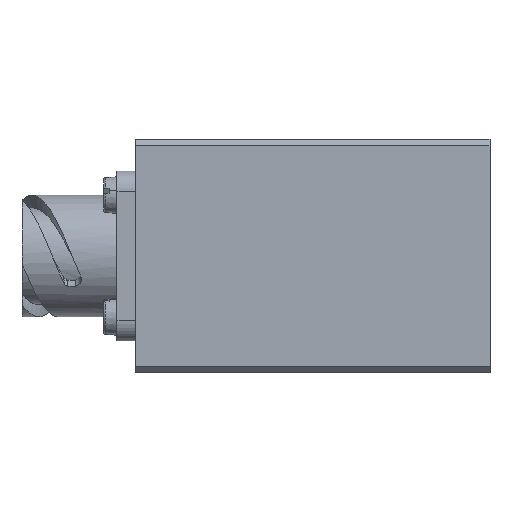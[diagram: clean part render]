
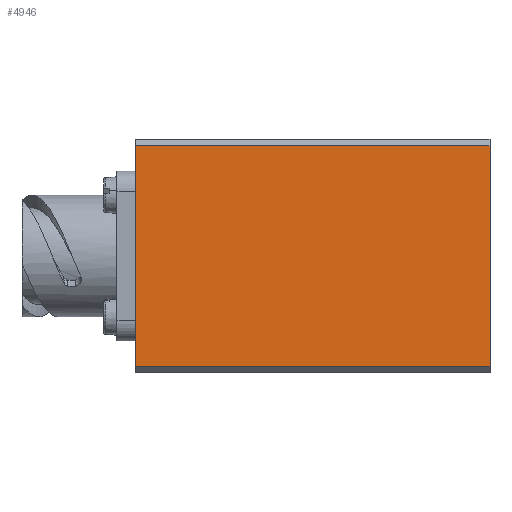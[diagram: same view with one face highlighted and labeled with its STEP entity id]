
A CAD part, front view. The second image highlights one B-rep face of the part: STEP entity #4946.
In plain terms, the highlighted planar face has unit normal (0, -1, 0).
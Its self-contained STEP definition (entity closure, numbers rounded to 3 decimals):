
#184 = ORIENTED_EDGE ( 'NONE', *, *, #5583, .T. ) ;
#556 = DIRECTION ( 'NONE',  ( 0., 0., -1. ) ) ;
#749 = ORIENTED_EDGE ( 'NONE', *, *, #7828, .T. ) ;
#1058 = LINE ( 'NONE', #8638, #10287 ) ;
#1925 = ORIENTED_EDGE ( 'NONE', *, *, #12038, .F. ) ;
#2751 = VERTEX_POINT ( 'NONE', #10749 ) ;
#2874 = EDGE_LOOP ( 'NONE', ( #749, #13972, #1925, #184 ) ) ;
#3399 = PLANE ( 'NONE',  #8987 ) ;
#3507 = VERTEX_POINT ( 'NONE', #14790 ) ;
#3585 = DIRECTION ( 'NONE',  ( -1., 0., 0. ) ) ;
#3822 = LINE ( 'NONE', #5310, #6871 ) ;
#4049 = DIRECTION ( 'NONE',  ( 1., 0., 0. ) ) ;
#4525 = DIRECTION ( 'NONE',  ( 0., 0., 1. ) ) ;
#4567 = CARTESIAN_POINT ( 'NONE',  ( 53., -17.5, 17.5 ) ) ;
#4946 = ADVANCED_FACE ( 'NONE', ( #10966 ), #3399, .F. ) ;
#5011 = VERTEX_POINT ( 'NONE', #10236 ) ;
#5310 = CARTESIAN_POINT ( 'NONE',  ( 0., -17.5, 17.5 ) ) ;
#5583 = EDGE_CURVE ( 'NONE', #11557, #3507, #13676, .T. ) ;
#6703 = LINE ( 'NONE', #10987, #12846 ) ;
#6871 = VECTOR ( 'NONE', #7581, 1000. ) ;
#7581 = DIRECTION ( 'NONE',  ( 0., 0., -1. ) ) ;
#7828 = EDGE_CURVE ( 'NONE', #3507, #5011, #3822, .T. ) ;
#8638 = CARTESIAN_POINT ( 'NONE',  ( 53., -17.5, 17.5 ) ) ;
#8713 = CARTESIAN_POINT ( 'NONE',  ( 53., -17.5, 16.5 ) ) ;
#8987 = AXIS2_PLACEMENT_3D ( 'NONE', #4567, #14858, #4525 ) ;
#10236 = CARTESIAN_POINT ( 'NONE',  ( 0., -17.5, -16.5 ) ) ;
#10287 = VECTOR ( 'NONE', #556, 1000. ) ;
#10612 = VECTOR ( 'NONE', #3585, 1000. ) ;
#10749 = CARTESIAN_POINT ( 'NONE',  ( 53., -17.5, -16.5 ) ) ;
#10966 = FACE_OUTER_BOUND ( 'NONE', #2874, .T. ) ;
#10987 = CARTESIAN_POINT ( 'NONE',  ( 53., -17.5, -16.5 ) ) ;
#11514 = EDGE_CURVE ( 'NONE', #5011, #2751, #6703, .T. ) ;
#11557 = VERTEX_POINT ( 'NONE', #8713 ) ;
#12038 = EDGE_CURVE ( 'NONE', #11557, #2751, #1058, .T. ) ;
#12383 = CARTESIAN_POINT ( 'NONE',  ( 53., -17.5, 16.5 ) ) ;
#12846 = VECTOR ( 'NONE', #4049, 1000. ) ;
#13676 = LINE ( 'NONE', #12383, #10612 ) ;
#13972 = ORIENTED_EDGE ( 'NONE', *, *, #11514, .T. ) ;
#14790 = CARTESIAN_POINT ( 'NONE',  ( 0., -17.5, 16.5 ) ) ;
#14858 = DIRECTION ( 'NONE',  ( 0., 1., 0. ) ) ;
